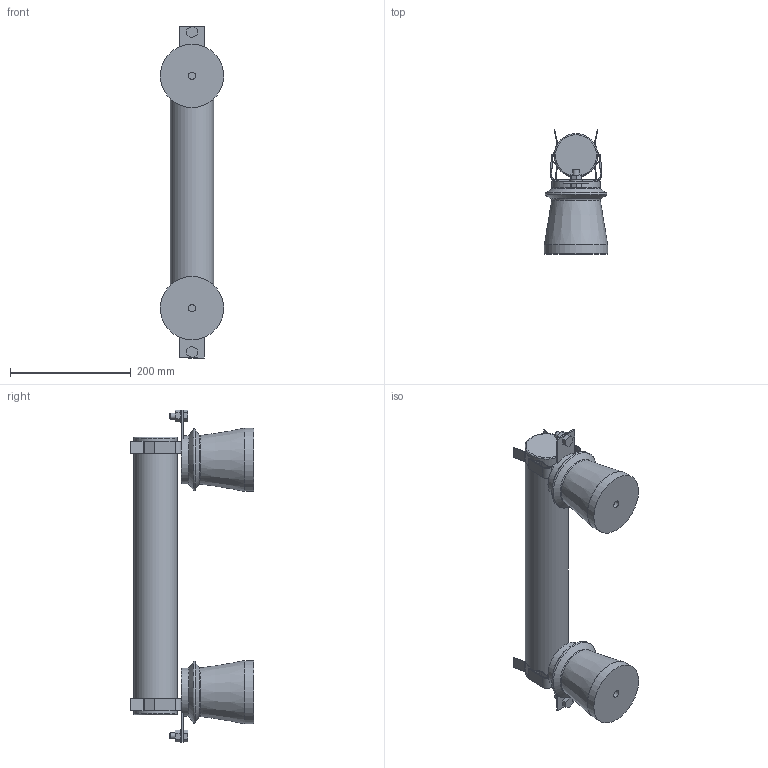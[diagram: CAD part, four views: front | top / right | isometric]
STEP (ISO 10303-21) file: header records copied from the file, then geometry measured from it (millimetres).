
FILE_DESCRIPTION (( 'STEP AP214' ), '1' );
FILE_NAME ('Ïðåäîõðàíèòåëü ÏÊÒ-102-10 Ó3.STEP', '2023-03-06T10:48:13', ( '' ), ( '' ), 'SwSTEP 2.0', 'SolidWorks 2018', '' );
FILE_SCHEMA (( 'AUTOMOTIVE_DESIGN' ));
Length unit declared in the file: millimetre
Products named in the file (1): Ïðåäîõðàíèòåëü ÏÊÒ-102-10 Ó3
Bounding box: 105 x 205.21 x 550 mm (x, y, z)
Volume: 3547312.9 mm3; surface area: 248342.7 mm2
Topology: 1 solids, 1 shells, 193 faces, 534 edges, 347 vertices
Faces by surface type: plane 124, cylinder 51, torus 10, cone 8
Full cylindrical faces by diameter (mm): 10 x2, 12 x2, 20 x2, 72 x1, 80 x2, 105 x2
Entity records: 5938 total; most frequent: DIRECTION 1030, CARTESIAN_POINT 1016, ORIENTED_EDGE 980, EDGE_CURVE 490, AXIS2_PLACEMENT_3D 346, VECTOR 338, LINE 338, VERTEX_POINT 332
